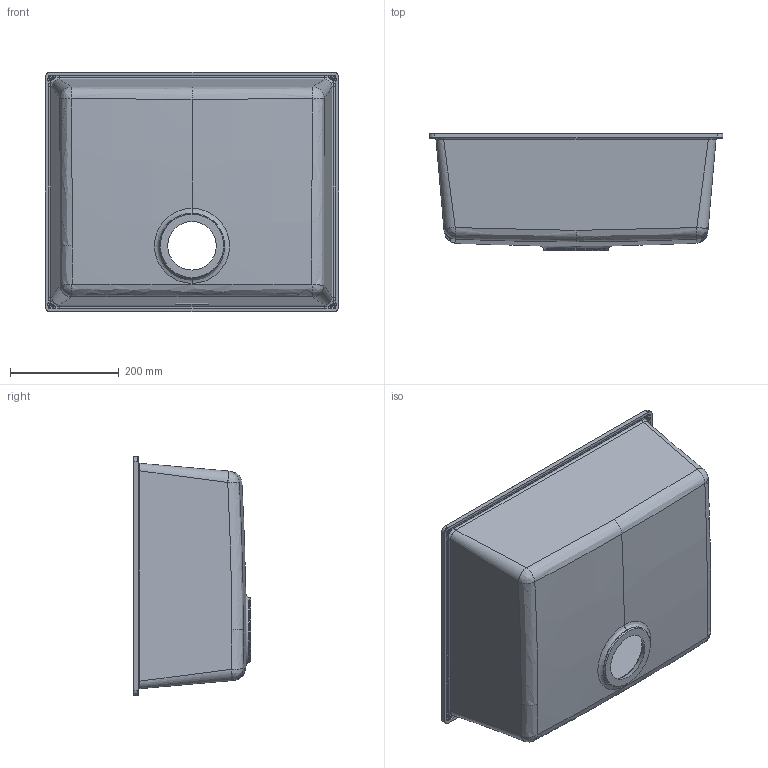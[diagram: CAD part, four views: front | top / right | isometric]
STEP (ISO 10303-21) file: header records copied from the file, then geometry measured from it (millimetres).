
FILE_DESCRIPTION (( 'STEP AP203' ), '1' );
FILE_NAME ('3d_integra_105.STEP', '2019-01-22T15:21:15', ( '' ), ( '' ), 'SwSTEP 2.0', 'SolidWorks 2013', '' );
FILE_SCHEMA (( 'CONFIG_CONTROL_DESIGN' ));
Length unit declared in the file: millimetre
Products named in the file (1): 3d_integra_105
Bounding box: 540 x 214.97 x 440 mm (x, y, z)
Volume: 4221901.8 mm3; surface area: 1067889 mm2
Topology: 1 solids, 1 shells, 187 faces, 460 edges, 268 vertices
Faces by surface type: bspline 110, cylinder 44, plane 27, cone 6
Entity records: 10619 total; most frequent: CARTESIAN_POINT 6872, ORIENTED_EDGE 904, DIRECTION 594, EDGE_CURVE 452, VERTEX_POINT 268, AXIS2_PLACEMENT_3D 240, EDGE_LOOP 192, ADVANCED_FACE 187
